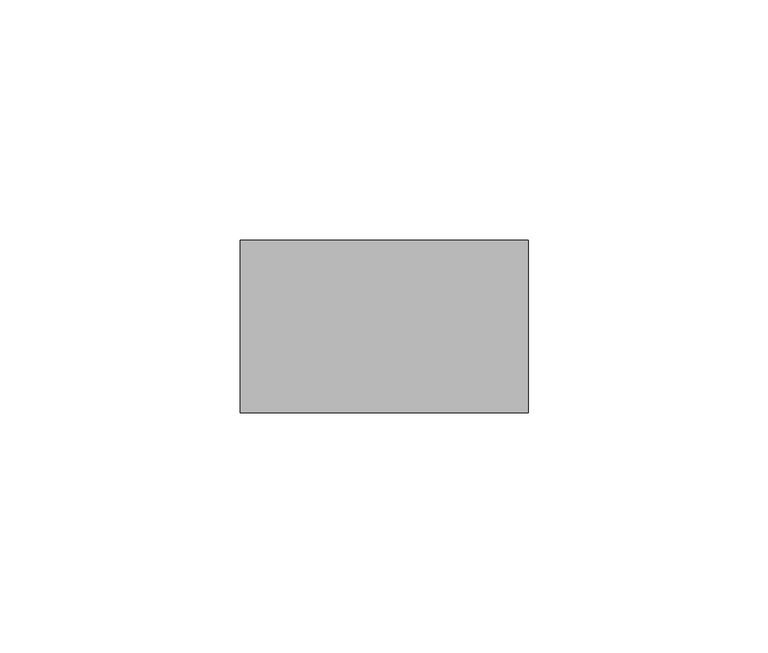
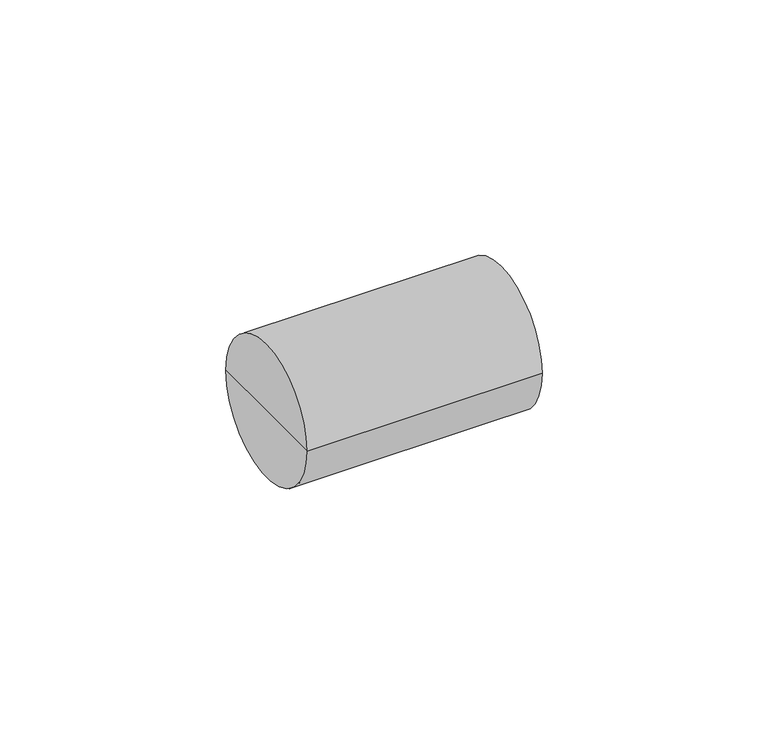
"""IFC4 building model written with IfcOpenShell, lengths in millimetres: cable carrier fitting geometry, Муфта для гофрированных труб, прозрачная GFLEX D ИЭК : CTA10D-GFLEX32-K08-025."""

from ifc_helpers import new_model, si_unit, frame, origin, place, context, project, spatial, circle_curve, source, transform, mapped, element, save
from ifc_brep_helpers import plane_surface, cylinder_surface, advanced_brep


def cable_carrier_fitting_a83b23f9(model_context):
    return source(origin(), model_context, "Body", "AdvancedBrep", [
        advanced_brep(
        [(-30.0, -18.0, 0.0), (-30.0, 18.0, 0.0), (30.0, 18.0, 0.0), (30.0, -18.0, 0.0), (-30.0, 0.0, 0.0), (30.0, 0.0, 0.0)],
        [
            (0, 1, circle_curve(frame((-30.0, 0.0, 0.0), z_axis=(1.0, 0.0, 0.0), x_axis=(0.0, 1.0, 0.0)), 18.0)),
            (1, 2),
            (2, 3, circle_curve(frame((30.0, 0.0, 0.0), z_axis=(-1.0, 0.0, 0.0), x_axis=(0.0, 1.0, 0.0)), 18.0)),
            (3, 0),
            (1, 0, circle_curve(frame((-30.0, 0.0, 0.0), z_axis=(1.0, 0.0, 0.0), x_axis=(0.0, 1.0, 0.0)), 18.0)),
            (3, 2, circle_curve(frame((30.0, 0.0, 0.0), z_axis=(-1.0, 0.0, 0.0), x_axis=(0.0, 1.0, 0.0)), 18.0)),
            (4, 1),
            (0, 4),
            (2, 5),
            (5, 3),
        ],
        [
            cylinder_surface(frame((1955.0, 0.0, 0.0), z_axis=(-1.0, 0.0, 0.0), x_axis=(0.0, 1.0, 0.0)), 18.0),
            plane_surface(frame((-30.0, 0.0, 0.0), z_axis=(-1.0, 0.0, 0.0), x_axis=(0.0, 1.0, 0.0))),
            plane_surface(frame((30.0, 0.0, 0.0), z_axis=(1.0, 0.0, 0.0), x_axis=(0.0, 1.0, 0.0))),
        ],
        [
            (0, [[1, 2, 3, 4]]),
            (0, [[5, -4, 6, -2]]),
            (1, [[7, -1, 8]]),
            (1, [[-8, -5, -7]]),
            (2, [[-3, 9, 10]]),
            (2, [[-6, -10, -9]]),
        ],
    ),
    ])


if __name__ == "__main__":
    model = new_model("IFC4")
    model_context = context("Model", 3, world=origin())
    ifc_project = project(units=[si_unit("LENGTHUNIT", "METRE", prefix="MILLI")], contexts=[model_context])
    site = spatial("IfcSite", under=ifc_project)
    building = spatial("IfcBuilding", under=site)
    placement = place(None, origin())
    cable_carrier_fitting_shape = cable_carrier_fitting_a83b23f9(model_context)
    element("IfcCableCarrierFitting", 1, ObjectType="Муфта для гофрированных труб, прозрачная GFLEX D ИЭК : CTA10D-GFLEX32-K08-025", at=placement, inside=building, context=model_context, shape_type="MappedRepresentation", body=[
        mapped(cable_carrier_fitting_shape, transform((0.0, 0.0, 0.0), x_axis=(1.0, 0.0, 0.0), y_axis=(0.0, 1.0, 0.0), z_axis=(0.0, 0.0, 1.0))),
    ])
    save(model, "model.ifc")
